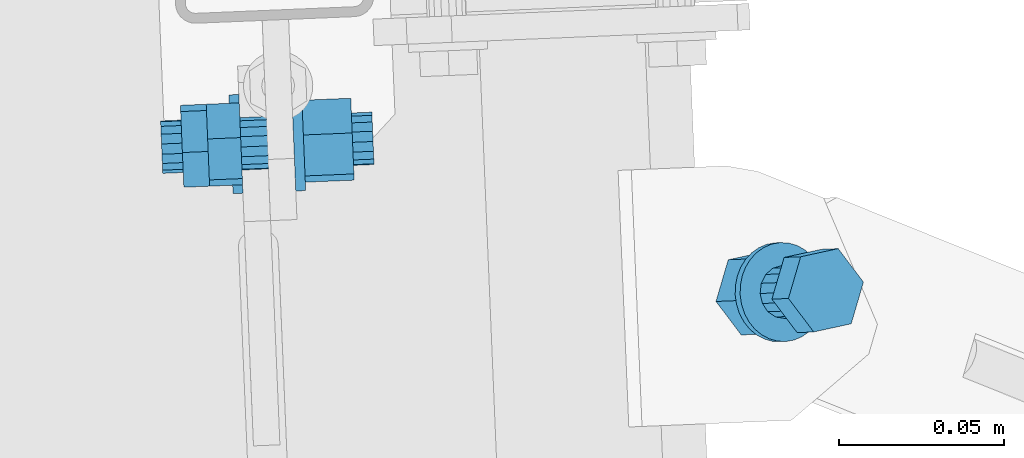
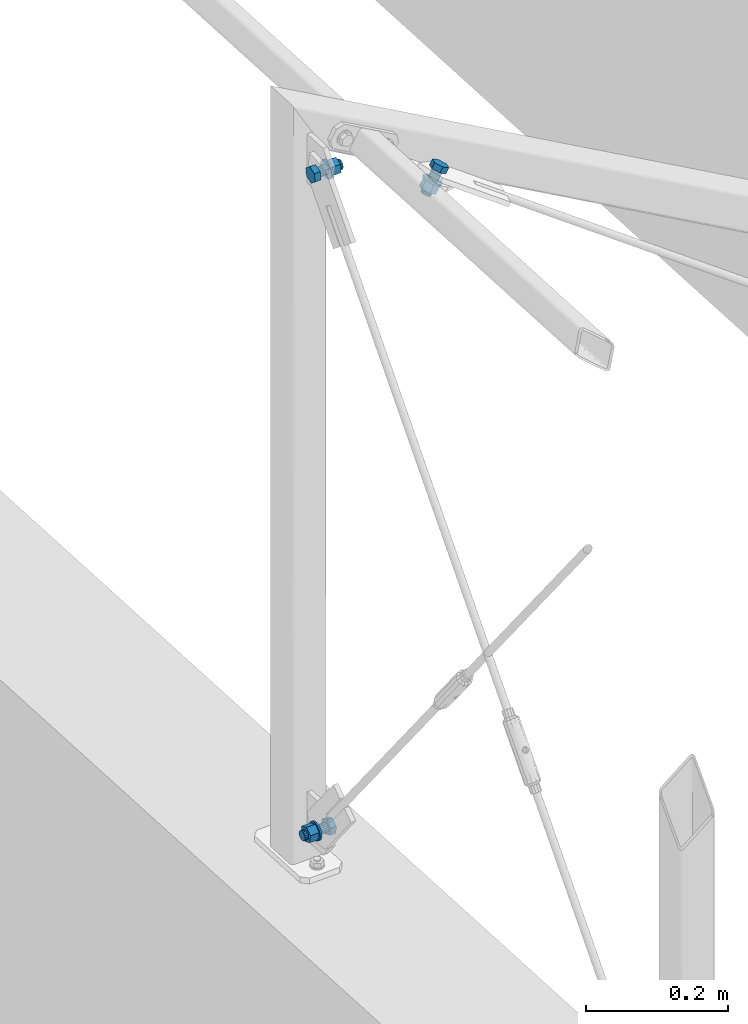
# One storey, part 217 of 288: 3 mechanical fasteners.
"""IFC2X3 building model written with IfcOpenShell, lengths in millimetres."""

from ifc_helpers import new_model, entity, si_unit, converted_unit, origin_with_axes, place, context, project, spatial, faceted_brep, element, save


model = new_model("IFC2X3")

# Units and contexts
model_context = context("Model", 3, precision=1e-09, world=origin_with_axes())
ifc_project = project(units=[si_unit("LENGTHUNIT", "METRE", prefix="MILLI"), si_unit("AREAUNIT", "SQUARE_METRE"), si_unit("VOLUMEUNIT", "CUBIC_METRE"), converted_unit("PLANEANGLEUNIT", "DEGREE", entity("IfcPlaneAngleMeasure", 0.01745329), si_unit("PLANEANGLEUNIT", "RADIAN"), dimensions=[0, 0, 0, 0, 0, 0, 0])], contexts=[model_context])

# Site, building, storey
site_placement = place(None, origin_with_axes())
site = spatial("IfcSite", under=ifc_project, at=site_placement, Name="Remont ?wietlik?w nad MC w NCPP w Opolu", CompositionType="ELEMENT")
building_placement = place(site_placement, origin_with_axes())
building = spatial("IfcBuilding", under=site, at=building_placement, Name="Konstrukcja 1", CompositionType="ELEMENT")
storey_placement = place(building_placement, origin_with_axes())
storey = spatial("IfcBuildingStorey", under=building, at=storey_placement, Name="Default Storey", CompositionType="ELEMENT", Elevation=0.0)

# Mechanical fasteners
mechanical_fastener_1_placement = place(None, origin_with_axes())
element("IfcMechanicalFastener", 1, at=mechanical_fastener_1_placement, inside=storey, ObjectType="Bolt#1", NominalDiameter=16.0, NominalLength=40.0, context=model_context, shape_type="Brep", body=[
    faceted_brep([(-326.466525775, 4924.391941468, 98.650764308), (-316.475217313, 4924.80878102, 98.650764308), (-316.992626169, 4937.210654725, 93.669153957), (-326.983934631, 4936.793815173, 93.669153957), (-317.071497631, 4939.101140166, 80.428667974), (-327.062806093, 4938.684300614, 80.428667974), (-316.632960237, 4928.589751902, 72.16979234), (-326.624268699, 4928.17291235, 72.16979234), (-316.115551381, 4916.187878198, 77.151402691), (-326.106859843, 4915.771038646, 77.151402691), (-316.036679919, 4914.297392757, 90.391888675), (-326.027988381, 4913.880553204, 90.391888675)], [[[0, 1, 2, 3]], [[3, 2, 4, 5]], [[5, 4, 6, 7]], [[7, 6, 8, 9]], [[9, 8, 10, 11]], [[11, 10, 1, 0]], [[4, 2, 1, 10, 8, 6]], [[0, 3, 5, 7, 9, 11]]]),
    faceted_brep([(-326.751311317, 4931.218021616, 79.117623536), (-342.737404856, 4930.551078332, 79.117623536), (-342.822109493, 4932.581380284, 81.487036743), (-326.836015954, 4933.248323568, 81.487036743), (-342.862570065, 4933.551187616, 84.453727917), (-326.876476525, 4934.2181309, 84.453727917), (-342.852626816, 4933.312855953, 87.566045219), (-326.866533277, 4933.979799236, 87.566045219), (-342.793793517, 4931.902669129, 90.350166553), (-326.807699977, 4932.569612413, 90.350166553), (-342.695027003, 4929.535315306, 92.382234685), (-326.708933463, 4930.20225859, 92.382234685), (-342.571363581, 4926.571202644, 93.352885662), (-326.585270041, 4927.238145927, 93.352885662), (-342.441629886, 4923.461590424, 93.114346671), (-326.455536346, 4924.128533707, 93.114346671), (-342.325576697, 4920.679888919, 91.702933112), (-326.339483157, 4921.346832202, 91.702933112), (-342.24087206, 4918.649586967, 89.333519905), (-326.25477852, 4919.31653025, 89.333519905), (-342.200411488, 4917.679779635, 86.366828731), (-326.214317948, 4918.346722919, 86.366828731), (-342.210354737, 4917.918111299, 83.254511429), (-326.224261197, 4918.585054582, 83.254511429), (-342.269188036, 4919.328298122, 80.470390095), (-326.283094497, 4919.995241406, 80.470390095), (-342.36795455, 4921.695651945, 78.438321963), (-326.381861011, 4922.362595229, 78.438321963), (-342.491617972, 4924.659764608, 77.467670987), (-326.505524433, 4925.326707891, 77.467670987), (-342.621351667, 4927.769376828, 77.706209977), (-326.635258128, 4928.436320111, 77.706209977)], [[[0, 1, 2, 3]], [[3, 2, 4, 5]], [[5, 4, 6, 7]], [[7, 6, 8, 9]], [[9, 8, 10, 11]], [[11, 10, 12, 13]], [[13, 12, 14, 15]], [[15, 14, 16, 17]], [[17, 16, 18, 19]], [[19, 18, 20, 21]], [[21, 20, 22, 23]], [[23, 22, 24, 25]], [[25, 24, 26, 27]], [[27, 26, 28, 29]], [[29, 28, 30, 31]], [[31, 30, 1, 0]], [[0, 3, 5, 7, 9, 11, 13, 15, 17, 19, 21, 23, 25, 27, 29, 31]], [[1, 30, 28, 26, 24, 22, 20, 18, 16, 14, 12, 10, 8, 6, 4, 2]]]),
    faceted_brep([(-342.917579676, 4934.869723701, 73.611550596), (-345.914972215, 4934.744671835, 73.611550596), (-346.003502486, 4936.866671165, 75.645243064), (-343.006109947, 4936.991723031, 75.645243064), (-346.073793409, 4938.551487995, 78.05420036), (-343.07640087, 4938.676539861, 78.05420036), (-346.123143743, 4939.734375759, 80.745847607), (-343.125751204, 4939.859427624, 80.745847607), (-346.149656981, 4940.369876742, 83.616746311), (-343.152264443, 4940.494928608, 83.616746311), (-346.152314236, 4940.433569, 86.556569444), (-343.154921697, 4940.558620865, 86.556569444), (-346.13101339, 4939.923004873, 89.452341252), (-343.133620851, 4940.048056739, 89.452341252), (-346.086573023, 4938.857805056, 92.192778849), (-343.089180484, 4938.982856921, 92.192778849), (-346.020700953, 4937.278904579, 94.672568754), (-343.023308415, 4937.403956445, 94.672568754), (-345.935928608, 4935.246979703, 96.796414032), (-342.938536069, 4935.372031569, 96.796414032), (-345.83551374, 4932.840116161, 98.482696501), (-342.838121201, 4932.965168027, 98.482696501), (-345.723315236, 4930.15080837, 99.66661327), (-342.725922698, 4930.275860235, 99.66661327), (-345.603644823, 4927.282404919, 100.302667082), (-342.606252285, 4927.407456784, 100.302667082), (-345.481101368, 4924.345136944, 100.366414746), (-342.483708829, 4924.470188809, 100.366414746), (-345.360394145, 4921.451882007, 99.855406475), (-342.363001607, 4921.576933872, 99.855406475), (-345.246161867, 4918.713826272, 98.78928003), (-342.248769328, 4918.838878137, 98.78928003), (-345.142794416, 4916.236191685, 97.209006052), (-342.145401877, 4916.361243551, 97.209006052), (-345.054264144, 4914.114192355, 95.175313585), (-342.056871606, 4914.23924422, 95.175313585), (-344.983973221, 4912.429375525, 92.766356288), (-341.986580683, 4912.554427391, 92.766356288), (-344.934622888, 4911.246487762, 90.074709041), (-341.937230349, 4911.371539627, 90.074709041), (-344.908109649, 4910.610986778, 87.203810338), (-341.910717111, 4910.736038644, 87.203810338), (-344.905452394, 4910.547294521, 84.263987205), (-341.908059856, 4910.672346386, 84.263987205), (-344.92675324, 4911.057858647, 81.368215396), (-341.929360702, 4911.182910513, 81.368215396), (-344.971193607, 4912.123058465, 78.6277778), (-341.973801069, 4912.24811033, 78.6277778), (-345.037065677, 4913.701958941, 76.147987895), (-342.039673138, 4913.827010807, 76.147987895), (-345.121838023, 4915.733883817, 74.024142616), (-342.124445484, 4915.858935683, 74.024142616), (-345.222252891, 4918.140747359, 72.337860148), (-342.224860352, 4918.265799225, 72.337860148), (-345.334451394, 4920.830055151, 71.153943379), (-342.337058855, 4920.955107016, 71.153943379), (-345.454121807, 4923.698458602, 70.517889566), (-342.456729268, 4923.823510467, 70.517889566), (-345.576665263, 4926.635726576, 70.454141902), (-342.579272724, 4926.760778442, 70.454141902), (-345.697372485, 4929.528981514, 70.965150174), (-342.699979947, 4929.654033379, 70.965150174), (-345.811604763, 4932.267037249, 72.031276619), (-342.814212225, 4932.392089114, 72.031276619)], [[[0, 1, 2, 3]], [[3, 2, 4, 5]], [[5, 4, 6, 7]], [[7, 6, 8, 9]], [[9, 8, 10, 11]], [[11, 10, 12, 13]], [[13, 12, 14, 15]], [[15, 14, 16, 17]], [[17, 16, 18, 19]], [[19, 18, 20, 21]], [[21, 20, 22, 23]], [[23, 22, 24, 25]], [[25, 24, 26, 27]], [[27, 26, 28, 29]], [[29, 28, 30, 31]], [[31, 30, 32, 33]], [[33, 32, 34, 35]], [[35, 34, 36, 37]], [[37, 36, 38, 39]], [[39, 38, 40, 41]], [[41, 40, 42, 43]], [[43, 42, 44, 45]], [[45, 44, 46, 47]], [[47, 46, 48, 49]], [[49, 48, 50, 51]], [[51, 50, 52, 53]], [[53, 52, 54, 55]], [[55, 54, 56, 57]], [[57, 56, 58, 59]], [[59, 58, 60, 61]], [[61, 60, 62, 63]], [[63, 62, 1, 0]], [[0, 3, 5, 7, 9, 11, 13, 15, 17, 19, 21, 23, 25, 27, 29, 31, 33, 35, 37, 39, 41, 43, 45, 47, 49, 51, 53, 55, 57, 59, 61, 63]], [[1, 62, 60, 58, 56, 54, 52, 50, 48, 46, 44, 42, 40, 38, 36, 34, 32, 30, 28, 26, 24, 22, 20, 18, 16, 14, 12, 10, 8, 6, 4, 2]]]),
    faceted_brep([(-360.237148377, 4922.983023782, 98.650764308), (-345.450011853, 4923.599946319, 98.650764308), (-345.967420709, 4936.001820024, 93.669153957), (-360.754557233, 4935.384897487, 93.669153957), (-346.046292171, 4937.892305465, 80.428667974), (-360.833428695, 4937.275382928, 80.428667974), (-345.607754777, 4927.380917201, 72.16979234), (-360.394891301, 4926.763994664, 72.16979234), (-345.090345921, 4914.979043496, 77.151402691), (-359.877482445, 4914.362120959, 77.151402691), (-345.011474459, 4913.088558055, 90.391888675), (-359.798610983, 4912.471635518, 90.391888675)], [[[0, 1, 2, 3]], [[3, 2, 4, 5]], [[5, 4, 6, 7]], [[7, 6, 8, 9]], [[9, 8, 10, 11]], [[11, 10, 1, 0]], [[4, 2, 1, 10, 8, 6]], [[0, 3, 5, 7, 9, 11]]]),
    faceted_brep([(-360.521933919, 4929.80910393, 79.117623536), (-366.716545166, 4929.550663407, 79.117623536), (-366.801249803, 4931.580965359, 81.487036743), (-360.606638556, 4931.839405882, 81.487036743), (-366.841710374, 4932.550772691, 84.453727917), (-360.647099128, 4932.809213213, 84.453727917), (-366.831767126, 4932.312441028, 87.566045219), (-360.637155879, 4932.57088155, 87.566045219), (-366.772933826, 4930.902254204, 90.350166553), (-360.57832258, 4931.160694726, 90.350166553), (-366.674167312, 4928.534900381, 92.382234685), (-360.479556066, 4928.793340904, 92.382234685), (-366.55050389, 4925.570787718, 93.352885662), (-360.355892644, 4925.829228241, 93.352885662), (-366.420770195, 4922.461175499, 93.114346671), (-360.226158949, 4922.719616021, 93.114346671), (-366.304717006, 4919.679473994, 91.702933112), (-360.11010576, 4919.937914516, 91.702933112), (-366.220012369, 4917.649172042, 89.333519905), (-360.025401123, 4917.907612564, 89.333519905), (-366.179551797, 4916.67936471, 86.366828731), (-359.984940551, 4916.937805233, 86.366828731), (-366.189495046, 4916.917696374, 83.254511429), (-359.994883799, 4917.176136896, 83.254511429), (-366.248328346, 4918.327883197, 80.470390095), (-360.053717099, 4918.586323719, 80.470390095), (-366.34709486, 4920.69523702, 78.438321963), (-360.152483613, 4920.953677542, 78.438321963), (-366.470758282, 4923.659349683, 77.467670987), (-360.276147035, 4923.917790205, 77.467670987), (-366.600491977, 4926.768961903, 77.706209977), (-360.40588073, 4927.027402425, 77.706209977)], [[[0, 1, 2, 3]], [[3, 2, 4, 5]], [[5, 4, 6, 7]], [[7, 6, 8, 9]], [[9, 8, 10, 11]], [[11, 10, 12, 13]], [[13, 12, 14, 15]], [[15, 14, 16, 17]], [[17, 16, 18, 19]], [[19, 18, 20, 21]], [[21, 20, 22, 23]], [[23, 22, 24, 25]], [[25, 24, 26, 27]], [[27, 26, 28, 29]], [[29, 28, 30, 31]], [[31, 30, 1, 0]], [[0, 3, 5, 7, 9, 11, 13, 15, 17, 19, 21, 23, 25, 27, 29, 31]], [[1, 30, 28, 26, 24, 22, 20, 18, 16, 14, 12, 10, 8, 6, 4, 2]]]),
])
mechanical_fastener_2_placement = place(None, origin_with_axes())
element("IfcMechanicalFastener", 2, at=mechanical_fastener_2_placement, inside=storey, ObjectType="Bolt#1", NominalDiameter=16.0, NominalLength=40.0, context=model_context, shape_type="Brep", body=[
    faceted_brep([(-342.441900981, 4923.725542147, 1206.349235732), (-352.433219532, 4923.308944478, 1206.349235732), (-352.950328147, 4935.710830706, 1211.330846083), (-342.959009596, 4936.127428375, 1211.330846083), (-353.029153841, 4937.601318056, 1224.571332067), (-343.037835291, 4938.017915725, 1224.571332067), (-352.590870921, 4927.089919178, 1232.8302077), (-342.59955237, 4927.506516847, 1232.8302077), (-352.073762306, 4914.688032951, 1227.848597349), (-342.082443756, 4915.10463062, 1227.848597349), (-351.994936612, 4912.797545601, 1214.608111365), (-342.003618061, 4913.21414327, 1214.608111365)], [[[0, 1, 2, 3]], [[3, 2, 4, 5]], [[5, 4, 6, 7]], [[7, 6, 8, 9]], [[9, 8, 10, 11]], [[11, 10, 1, 0]], [[4, 2, 1, 10, 8, 6]], [[0, 3, 5, 7, 9, 11]]]),
    faceted_brep([(-342.726521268, 4930.551629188, 1225.882376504), (-326.740411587, 4931.218185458, 1225.882376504), (-326.825067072, 4933.24848946, 1223.512963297), (-342.811176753, 4932.58193319, 1223.512963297), (-326.865504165, 4934.218297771, 1220.546272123), (-342.851613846, 4933.551741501, 1220.546272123), (-326.855566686, 4933.979965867, 1217.433954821), (-342.841676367, 4933.313409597, 1217.433954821), (-326.796767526, 4932.56977762, 1214.649833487), (-342.782877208, 4931.903221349, 1214.649833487), (-326.698058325, 4930.202421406, 1212.617765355), (-342.684168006, 4929.535865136, 1212.617765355), (-326.574466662, 4927.238305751, 1211.647114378), (-342.560576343, 4926.57174948, 1211.647114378), (-326.444808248, 4924.128690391, 1211.885653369), (-342.43091793, 4923.462134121, 1211.885653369), (-326.328822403, 4921.346986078, 1213.297066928), (-342.314932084, 4920.680429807, 1213.297066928), (-326.244166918, 4919.316682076, 1215.666480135), (-342.230276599, 4918.650125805, 1215.666480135), (-326.203729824, 4918.346873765, 1218.633171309), (-342.189839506, 4917.680317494, 1218.633171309), (-326.213667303, 4918.585205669, 1221.745488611), (-342.199776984, 4917.918649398, 1221.745488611), (-326.272466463, 4919.995393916, 1224.529609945), (-342.258576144, 4919.328837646, 1224.529609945), (-326.371175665, 4922.362750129, 1226.561678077), (-342.357285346, 4921.696193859, 1226.561678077), (-326.494767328, 4925.326865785, 1227.532329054), (-342.480877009, 4924.660309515, 1227.532329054), (-326.624425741, 4928.436481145, 1227.293790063), (-342.610535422, 4927.769924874, 1227.293790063)], [[[0, 1, 2, 3]], [[3, 2, 4, 5]], [[5, 4, 6, 7]], [[7, 6, 8, 9]], [[9, 8, 10, 11]], [[11, 10, 12, 13]], [[13, 12, 14, 15]], [[15, 14, 16, 17]], [[17, 16, 18, 19]], [[19, 18, 20, 21]], [[21, 20, 22, 23]], [[23, 22, 24, 25]], [[25, 24, 26, 27]], [[27, 26, 28, 29]], [[29, 28, 30, 31]], [[31, 30, 1, 0]], [[0, 3, 5, 7, 9, 11, 13, 15, 17, 19, 21, 23, 25, 27, 29, 31]], [[1, 30, 28, 26, 24, 22, 20, 18, 16, 14, 12, 10, 8, 6, 4, 2]]]),
    faceted_brep([(-326.920481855, 4935.536835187, 1231.388449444), (-323.92308629, 4935.661814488, 1231.388449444), (-324.011565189, 4937.783815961, 1229.354756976), (-327.008960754, 4937.65883666, 1229.354756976), (-324.081815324, 4939.468634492, 1226.94579968), (-327.079210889, 4939.343655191, 1226.94579968), (-324.13113702, 4940.651523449, 1224.254152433), (-327.128532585, 4940.526544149, 1224.254152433), (-324.157634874, 4941.287025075, 1221.38325373), (-327.155030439, 4941.162045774, 1221.38325373), (-324.160290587, 4941.350717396, 1218.443430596), (-327.157686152, 4941.225738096, 1218.443430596), (-324.139002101, 4940.840152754, 1215.547658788), (-327.136397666, 4940.715173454, 1215.547658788), (-324.094587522, 4939.774951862, 1212.807221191), (-327.091983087, 4939.649972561, 1212.807221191), (-324.028753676, 4938.196049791, 1210.327431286), (-327.026149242, 4938.07107049, 1210.327431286), (-323.944030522, 4936.164122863, 1208.203586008), (-326.941426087, 4936.039143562, 1208.203586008), (-323.843673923, 4933.757256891, 1206.517303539), (-326.841069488, 4933.63227759, 1206.517303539), (-323.731540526, 4931.067946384, 1205.33338677), (-326.728936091, 4930.942967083, 1205.33338677), (-323.611939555, 4928.199540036, 1204.697332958), (-326.60933512, 4928.074560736, 1204.697332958), (-323.489467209, 4925.262269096, 1204.633585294), (-326.486862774, 4925.137289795, 1204.633585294), (-323.36883003, 4922.369011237, 1205.144593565), (-326.366225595, 4922.244031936, 1205.144593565), (-323.254664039, 4919.630952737, 1206.210720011), (-326.252059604, 4919.505973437, 1206.210720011), (-323.151356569, 4917.153315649, 1207.790993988), (-326.148752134, 4917.028336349, 1207.790993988), (-323.06287767, 4915.031314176, 1209.824686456), (-326.060273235, 4914.906334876, 1209.824686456), (-322.992627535, 4913.346495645, 1212.233643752), (-325.990023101, 4913.221516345, 1212.233643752), (-322.943305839, 4912.163606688, 1214.925290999), (-325.940701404, 4912.038627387, 1214.925290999), (-322.916807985, 4911.528105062, 1217.796189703), (-325.91420355, 4911.403125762, 1217.796189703), (-322.914152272, 4911.464412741, 1220.736012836), (-325.911547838, 4911.33943344, 1220.736012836), (-322.935440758, 4911.974977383, 1223.631784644), (-325.932836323, 4911.849998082, 1223.631784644), (-322.979855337, 4913.040178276, 1226.372222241), (-325.977250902, 4912.915198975, 1226.372222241), (-323.045689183, 4914.619080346, 1228.852012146), (-326.043084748, 4914.494101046, 1228.852012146), (-323.130412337, 4916.651007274, 1230.975857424), (-326.127807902, 4916.526027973, 1230.975857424), (-323.230768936, 4919.057873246, 1232.662139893), (-326.228164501, 4918.932893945, 1232.662139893), (-323.342902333, 4921.747183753, 1233.846056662), (-326.340297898, 4921.622204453, 1233.846056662), (-323.462503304, 4924.615590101, 1234.482110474), (-326.459898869, 4924.4906108, 1234.482110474), (-323.58497565, 4927.552861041, 1234.545858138), (-326.582371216, 4927.427881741, 1234.545858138), (-323.705612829, 4930.4461189, 1234.034849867), (-326.703008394, 4930.321139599, 1234.034849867), (-323.81977882, 4933.1841774, 1232.968723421), (-326.817174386, 4933.059198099, 1232.968723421)], [[[0, 1, 2, 3]], [[3, 2, 4, 5]], [[5, 4, 6, 7]], [[7, 6, 8, 9]], [[9, 8, 10, 11]], [[11, 10, 12, 13]], [[13, 12, 14, 15]], [[15, 14, 16, 17]], [[17, 16, 18, 19]], [[19, 18, 20, 21]], [[21, 20, 22, 23]], [[23, 22, 24, 25]], [[25, 24, 26, 27]], [[27, 26, 28, 29]], [[29, 28, 30, 31]], [[31, 30, 32, 33]], [[33, 32, 34, 35]], [[35, 34, 36, 37]], [[37, 36, 38, 39]], [[39, 38, 40, 41]], [[41, 40, 42, 43]], [[43, 42, 44, 45]], [[45, 44, 46, 47]], [[47, 46, 48, 49]], [[49, 48, 50, 51]], [[51, 50, 52, 53]], [[53, 52, 54, 55]], [[55, 54, 56, 57]], [[57, 56, 58, 59]], [[59, 58, 60, 61]], [[61, 60, 62, 63]], [[63, 62, 1, 0]], [[0, 3, 5, 7, 9, 11, 13, 15, 17, 19, 21, 23, 25, 27, 29, 31, 33, 35, 37, 39, 41, 43, 45, 47, 49, 51, 53, 55, 57, 59, 61, 63]], [[1, 62, 60, 58, 56, 54, 52, 50, 48, 46, 44, 42, 40, 38, 36, 34, 32, 30, 28, 26, 24, 22, 20, 18, 16, 14, 12, 10, 8, 6, 4, 2]]]),
    faceted_brep([(-308.67124428, 4925.133642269, 1206.349235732), (-323.458395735, 4924.517077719, 1206.349235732), (-323.97550435, 4936.918963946, 1211.330846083), (-309.188352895, 4937.535528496, 1211.330846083), (-324.054330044, 4938.809451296, 1224.571332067), (-309.267178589, 4939.426015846, 1224.571332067), (-323.616047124, 4928.298052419, 1232.8302077), (-308.828895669, 4928.914616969, 1232.8302077), (-323.098938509, 4915.896166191, 1227.848597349), (-308.311787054, 4916.512730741, 1227.848597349), (-323.020112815, 4914.005678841, 1214.608111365), (-308.23296136, 4914.622243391, 1214.608111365)], [[[0, 1, 2, 3]], [[3, 2, 4, 5]], [[5, 4, 6, 7]], [[7, 6, 8, 9]], [[9, 8, 10, 11]], [[11, 10, 1, 0]], [[4, 2, 1, 10, 8, 6]], [[0, 3, 5, 7, 9, 11]]]),
    faceted_brep([(-308.955864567, 4931.959729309, 1225.882376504), (-302.761247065, 4932.218019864, 1225.882376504), (-302.84590255, 4934.248323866, 1223.512963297), (-309.040520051, 4933.990033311, 1223.512963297), (-302.886339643, 4935.218132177, 1220.546272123), (-309.080957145, 4934.959841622, 1220.546272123), (-302.876402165, 4934.979800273, 1217.433954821), (-309.071019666, 4934.721509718, 1217.433954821), (-302.817603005, 4933.569612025, 1214.649833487), (-309.012220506, 4933.311321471, 1214.649833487), (-302.718893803, 4931.202255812, 1212.617765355), (-308.913511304, 4930.943965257, 1212.617765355), (-302.59530214, 4928.238140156, 1211.647114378), (-308.789919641, 4927.979849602, 1211.647114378), (-302.465643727, 4925.128524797, 1211.885653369), (-308.660261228, 4924.870234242, 1211.885653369), (-302.349657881, 4922.346820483, 1213.297066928), (-308.544275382, 4922.088529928, 1213.297066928), (-302.265002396, 4920.316516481, 1215.666480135), (-308.459619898, 4920.058225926, 1215.666480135), (-302.224565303, 4919.34670817, 1218.633171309), (-308.419182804, 4919.088417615, 1218.633171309), (-302.234502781, 4919.585040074, 1221.745488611), (-308.429120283, 4919.32674952, 1221.745488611), (-302.293301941, 4920.995228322, 1224.529609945), (-308.487919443, 4920.736937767, 1224.529609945), (-302.392011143, 4923.362584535, 1226.561678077), (-308.586628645, 4923.10429398, 1226.561678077), (-302.515602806, 4926.326700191, 1227.532329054), (-308.710220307, 4926.068409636, 1227.532329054), (-302.645261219, 4929.43631555, 1227.293790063), (-308.839878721, 4929.178024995, 1227.293790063)], [[[0, 1, 2, 3]], [[3, 2, 4, 5]], [[5, 4, 6, 7]], [[7, 6, 8, 9]], [[9, 8, 10, 11]], [[11, 10, 12, 13]], [[13, 12, 14, 15]], [[15, 14, 16, 17]], [[17, 16, 18, 19]], [[19, 18, 20, 21]], [[21, 20, 22, 23]], [[23, 22, 24, 25]], [[25, 24, 26, 27]], [[27, 26, 28, 29]], [[29, 28, 30, 31]], [[31, 30, 1, 0]], [[0, 3, 5, 7, 9, 11, 13, 15, 17, 19, 21, 23, 25, 27, 29, 31]], [[1, 30, 28, 26, 24, 22, 20, 18, 16, 14, 12, 10, 8, 6, 4, 2]]]),
])
mechanical_fastener_3_placement = place(None, origin_with_axes())
element("IfcMechanicalFastener", 3, at=mechanical_fastener_3_placement, inside=storey, ObjectType="Bolt#1", NominalDiameter=16.0, NominalLength=40.0, context=model_context, shape_type="Brep", body=[
    faceted_brep([(-162.762342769, 4870.936875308, 1188.125704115), (-157.754671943, 4871.14553499, 1196.779009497), (-169.104758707, 4868.668558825, 1203.407036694), (-174.112429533, 4868.459899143, 1194.753731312), (-176.755815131, 4878.81022871, 1207.590156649), (-181.763485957, 4878.601569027, 1198.936851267), (-173.05678479, 4891.428874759, 1205.145249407), (-178.064455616, 4891.220215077, 1196.491944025), (-161.706698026, 4893.905850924, 1198.51722221), (-166.714368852, 4893.697191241, 1189.863916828), (-154.055641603, 4883.764181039, 1194.334102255), (-159.063312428, 4883.555521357, 1185.680796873)], [[[0, 1, 2, 3]], [[3, 2, 4, 5]], [[5, 4, 6, 7]], [[7, 6, 8, 9]], [[9, 8, 10, 11]], [[11, 10, 1, 0]], [[4, 2, 1, 10, 8, 6]], [[0, 3, 5, 7, 9, 11]]]),
    faceted_brep([(-176.975083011, 4883.725401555, 1196.04224835), (-184.987356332, 4883.391546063, 1182.196959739), (-185.334566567, 4880.301724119, 1182.472396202), (-177.322293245, 4880.635579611, 1196.317684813), (-184.629960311, 4877.279339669, 1182.137519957), (-176.61768699, 4877.613195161, 1195.982808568), (-182.98080748, 4874.784523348, 1181.243312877), (-174.968534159, 4875.11837884, 1195.088601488), (-180.638176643, 4873.197088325, 1179.925909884), (-172.625903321, 4873.530943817, 1193.771198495), (-177.958712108, 4872.758707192, 1178.385873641), (-169.946438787, 4873.092562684, 1192.231162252), (-175.350338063, 4873.536119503, 1176.857660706), (-167.338064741, 4873.869974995, 1190.702949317), (-173.210155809, 4875.41097128, 1175.573927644), (-165.197882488, 4875.744826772, 1189.419216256), (-171.863988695, 4878.097833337, 1174.730111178), (-163.851715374, 4878.431688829, 1188.57539979), (-171.516778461, 4881.187655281, 1174.454674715), (-163.504505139, 4881.521510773, 1188.299963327), (-172.221384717, 4884.210039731, 1174.78955096), (-164.209111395, 4884.543895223, 1188.634839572), (-173.870537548, 4886.704856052, 1175.68375804), (-165.858264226, 4887.038711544, 1189.529046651), (-176.213168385, 4888.292291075, 1177.001161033), (-168.200895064, 4888.626146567, 1190.846449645), (-178.892632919, 4888.730672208, 1178.541197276), (-170.880359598, 4889.0645277, 1192.386485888), (-181.501006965, 4887.953259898, 1180.069410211), (-173.488733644, 4888.28711539, 1193.914698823), (-183.641189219, 4886.07840812, 1181.353143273), (-175.628915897, 4886.412263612, 1195.198431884)], [[[0, 1, 2, 3]], [[3, 2, 4, 5]], [[5, 4, 6, 7]], [[7, 6, 8, 9]], [[9, 8, 10, 11]], [[11, 10, 12, 13]], [[13, 12, 14, 15]], [[15, 14, 16, 17]], [[17, 16, 18, 19]], [[19, 18, 20, 21]], [[21, 20, 22, 23]], [[23, 22, 24, 25]], [[25, 24, 26, 27]], [[27, 26, 28, 29]], [[29, 28, 30, 31]], [[31, 30, 1, 0]], [[0, 3, 5, 7, 9, 11, 13, 15, 17, 19, 21, 23, 25, 27, 29, 31]], [[1, 30, 28, 26, 24, 22, 20, 18, 16, 14, 12, 10, 8, 6, 4, 2]]]),
    faceted_brep([(-190.728829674, 4885.707545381, 1185.463705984), (-192.231130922, 4885.644947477, 1182.867714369), (-192.804050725, 4882.788717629, 1183.268136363), (-191.301749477, 4882.851315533, 1185.864127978), (-192.882150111, 4879.851531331, 1183.384157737), (-191.379848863, 4879.914129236, 1185.980149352), (-192.462427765, 4876.946263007, 1183.211319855), (-190.960126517, 4877.008860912, 1185.807311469), (-191.561013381, 4874.184560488, 1182.756264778), (-190.058712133, 4874.247158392, 1185.352256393), (-190.212547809, 4871.672554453, 1182.03648002), (-188.710246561, 4871.735152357, 1184.632471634), (-188.468851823, 4869.506779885, 1181.079626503), (-186.966550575, 4869.56937779, 1183.675618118), (-186.396934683, 4867.770466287, 1179.922475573), (-184.894633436, 4867.833064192, 1182.518467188), (-184.076419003, 4866.530339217, 1178.609495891), (-182.574117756, 4866.592937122, 1181.205487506), (-181.596480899, 4865.834056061, 1177.191144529), (-180.094179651, 4865.896653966, 1179.787136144), (-179.052423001, 4865.708374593, 1175.721927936), (-177.550121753, 4865.770972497, 1178.31791955), (-176.542012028, 4866.158124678, 1174.258307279), (-175.03971078, 4866.220722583, 1176.854298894), (-174.161721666, 4867.166022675, 1172.856528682), (-172.659420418, 4867.22862058, 1175.452520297), (-172.003025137, 4868.693335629, 1171.570461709), (-170.50072389, 4868.755933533, 1174.166453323), (-170.14887994, 4870.681369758, 1170.449529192), (-168.646578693, 4870.743967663, 1173.045520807), (-168.670539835, 4873.053726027, 1169.53680794), (-167.168238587, 4873.116323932, 1172.132799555), (-167.624816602, 4875.719236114, 1168.867373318), (-166.122515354, 4875.781834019, 1171.463364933), (-167.051896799, 4878.575465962, 1168.466951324), (-165.549595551, 4878.638063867, 1171.062942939), (-166.973797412, 4881.51265226, 1168.35092995), (-165.471496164, 4881.575250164, 1170.946921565), (-167.393519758, 4884.417920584, 1168.523767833), (-165.89121851, 4884.480518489, 1171.119759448), (-168.294934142, 4887.179623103, 1168.978822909), (-166.792632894, 4887.242221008, 1171.574814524), (-169.643399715, 4889.691629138, 1169.698607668), (-168.141098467, 4889.754227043, 1172.294599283), (-171.3870957, 4891.857403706, 1170.655461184), (-169.884794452, 4891.92000161, 1173.251452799), (-173.45901284, 4893.593717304, 1171.812612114), (-171.956711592, 4893.656315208, 1174.408603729), (-175.77952852, 4894.833844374, 1173.125591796), (-174.277227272, 4894.896442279, 1175.721583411), (-178.259466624, 4895.530127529, 1174.543943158), (-176.757165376, 4895.592725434, 1177.139934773), (-180.803524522, 4895.655808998, 1176.013159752), (-179.301223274, 4895.718406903, 1178.609151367), (-183.313935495, 4895.206058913, 1177.476780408), (-181.811634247, 4895.268656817, 1180.072772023), (-185.694225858, 4894.198160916, 1178.878559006), (-184.19192461, 4894.26075882, 1181.47455062), (-187.852922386, 4892.670847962, 1180.164625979), (-186.350621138, 4892.733445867, 1182.760617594), (-189.707067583, 4890.682813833, 1181.285558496), (-188.204766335, 4890.745411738, 1183.88155011), (-191.185407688, 4888.310457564, 1182.198279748), (-189.683106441, 4888.373055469, 1184.794271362)], [[[0, 1, 2, 3]], [[3, 2, 4, 5]], [[5, 4, 6, 7]], [[7, 6, 8, 9]], [[9, 8, 10, 11]], [[11, 10, 12, 13]], [[13, 12, 14, 15]], [[15, 14, 16, 17]], [[17, 16, 18, 19]], [[19, 18, 20, 21]], [[21, 20, 22, 23]], [[23, 22, 24, 25]], [[25, 24, 26, 27]], [[27, 26, 28, 29]], [[29, 28, 30, 31]], [[31, 30, 32, 33]], [[33, 32, 34, 35]], [[35, 34, 36, 37]], [[37, 36, 38, 39]], [[39, 38, 40, 41]], [[41, 40, 42, 43]], [[43, 42, 44, 45]], [[45, 44, 46, 47]], [[47, 46, 48, 49]], [[49, 48, 50, 51]], [[51, 50, 52, 53]], [[53, 52, 54, 55]], [[55, 54, 56, 57]], [[57, 56, 58, 59]], [[59, 58, 60, 61]], [[61, 60, 62, 63]], [[63, 62, 1, 0]], [[0, 3, 5, 7, 9, 11, 13, 15, 17, 19, 21, 23, 25, 27, 29, 31, 33, 35, 37, 39, 41, 43, 45, 47, 49, 51, 53, 55, 57, 59, 61, 63]], [[1, 62, 60, 58, 56, 54, 52, 50, 48, 46, 44, 42, 40, 38, 36, 34, 32, 30, 28, 26, 24, 22, 20, 18, 16, 14, 12, 10, 8, 6, 4, 2]]]),
    faceted_brep([(-179.68827016, 4870.231605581, 1158.877531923), (-172.276917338, 4870.540421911, 1171.684423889), (-183.627004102, 4868.063445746, 1178.312451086), (-191.038356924, 4867.754629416, 1165.50555912), (-191.278060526, 4878.205115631, 1182.495571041), (-198.689413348, 4877.896299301, 1169.688679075), (-187.579030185, 4890.82376168, 1180.050663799), (-194.990383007, 4890.51494535, 1167.243771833), (-176.228943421, 4893.300737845, 1173.422636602), (-183.640296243, 4892.991921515, 1160.615744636), (-168.577886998, 4883.15906796, 1169.239516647), (-175.98923982, 4882.85025163, 1156.432624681)], [[[0, 1, 2, 3]], [[3, 2, 4, 5]], [[5, 4, 6, 7]], [[7, 6, 8, 9]], [[9, 8, 10, 11]], [[11, 10, 1, 0]], [[4, 2, 1, 10, 8, 6]], [[0, 3, 5, 7, 9, 11]]]),
    faceted_brep([(-193.901010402, 4883.020131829, 1166.794076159), (-197.005766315, 4882.890762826, 1161.429026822), (-197.352976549, 4879.800940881, 1161.704463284), (-194.248220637, 4879.930309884, 1167.069512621), (-196.648370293, 4876.778556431, 1161.36958704), (-193.543614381, 4876.907925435, 1166.734636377), (-194.999217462, 4874.28374011, 1160.47537996), (-191.89446155, 4874.413109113, 1165.840429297), (-192.656586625, 4872.696305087, 1159.157976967), (-189.551830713, 4872.82567409, 1164.523026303), (-189.97712209, 4872.257923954, 1157.617940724), (-186.872366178, 4872.387292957, 1162.982990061), (-187.368748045, 4873.035336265, 1156.089727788), (-184.263992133, 4873.164705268, 1161.454777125), (-185.228565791, 4874.910188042, 1154.805994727), (-182.123809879, 4875.039557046, 1160.171044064), (-183.882398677, 4877.597050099, 1153.962178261), (-180.777642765, 4877.726419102, 1159.327227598), (-183.535188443, 4880.686872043, 1153.686741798), (-180.430432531, 4880.816241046, 1159.051791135), (-184.239794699, 4883.709256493, 1154.021618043), (-181.135038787, 4883.838625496, 1159.38666738), (-185.88894753, 4886.204072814, 1154.915825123), (-182.784191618, 4886.333441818, 1160.28087446), (-188.231578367, 4887.791507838, 1156.233228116), (-185.126822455, 4887.920876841, 1161.598277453), (-190.911042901, 4888.229888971, 1157.773264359), (-187.806286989, 4888.359257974, 1163.138313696), (-193.519416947, 4887.45247666, 1159.301477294), (-190.414661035, 4887.581845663, 1164.666526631), (-195.659599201, 4885.577624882, 1160.585210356), (-192.554843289, 4885.706993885, 1165.950259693)], [[[0, 1, 2, 3]], [[3, 2, 4, 5]], [[5, 4, 6, 7]], [[7, 6, 8, 9]], [[9, 8, 10, 11]], [[11, 10, 12, 13]], [[13, 12, 14, 15]], [[15, 14, 16, 17]], [[17, 16, 18, 19]], [[19, 18, 20, 21]], [[21, 20, 22, 23]], [[23, 22, 24, 25]], [[25, 24, 26, 27]], [[27, 26, 28, 29]], [[29, 28, 30, 31]], [[31, 30, 1, 0]], [[0, 3, 5, 7, 9, 11, 13, 15, 17, 19, 21, 23, 25, 27, 29, 31]], [[1, 30, 28, 26, 24, 22, 20, 18, 16, 14, 12, 10, 8, 6, 4, 2]]]),
])

save(model, "model.ifc")
